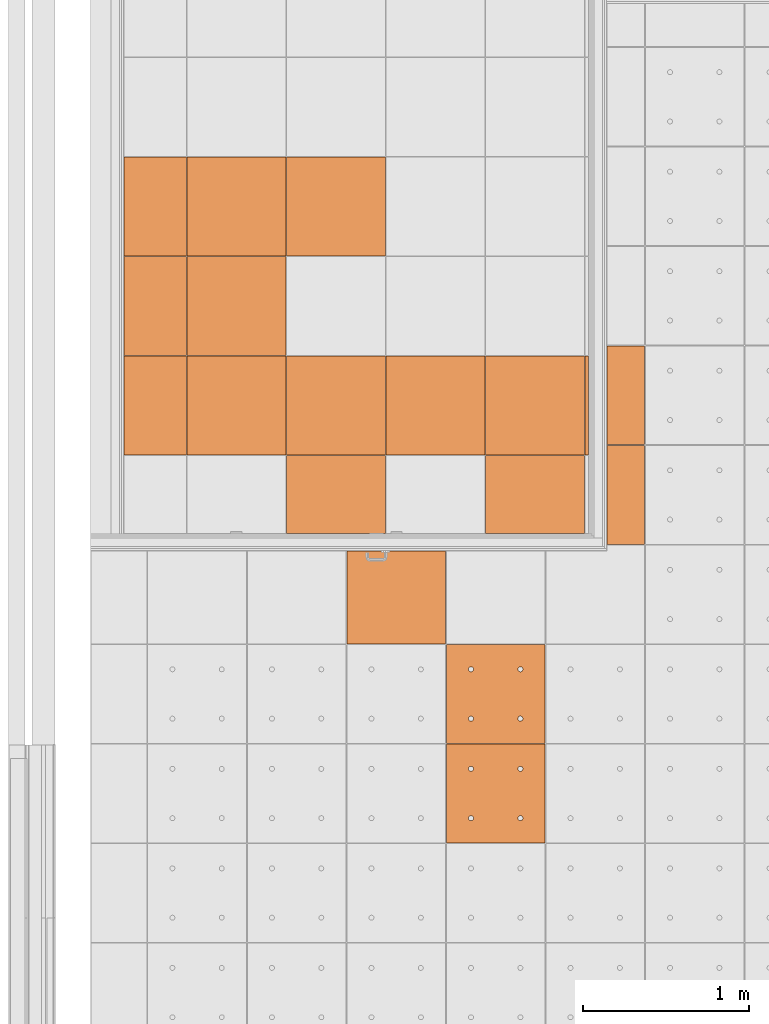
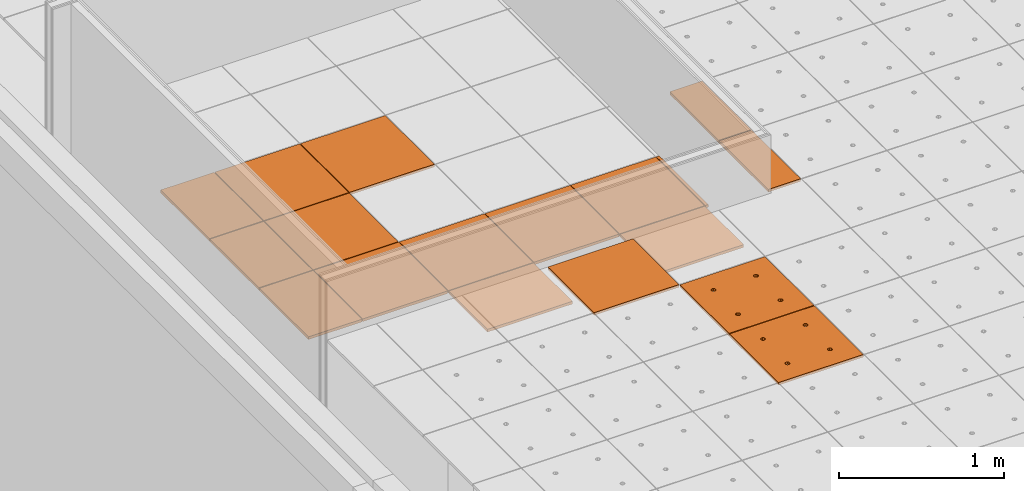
# One storey, part 242 of 338: 18 proxies, 2 elements without a shape of their own.
"""IFC2X3 building model written with IfcOpenShell, lengths in millimetres."""

from ifc_helpers import new_model, entity, si_unit, converted_unit, derived_unit, money_unit, direction, frame, origin_with_axes, place, context, subcontext, project, spatial, faceted_brep, source, transform, mapped, material, type_object, type_shapes, element, aggregate, save


model = new_model("IFC2X3")

# Units and contexts
model_context = context("Model", 3, precision=0.01, world=origin_with_axes(), true_north=direction((0.0, 1.0)))
plan_context = context("Plan", 3, precision=0.01, world=origin_with_axes(), true_north=direction((0.0, 1.0)))
body_context = subcontext(model_context, "Body", "Model", "MODEL_VIEW")
ifc_project = project(units=[si_unit("LENGTHUNIT", "METRE", prefix="MILLI"), si_unit("AREAUNIT", "SQUARE_METRE"), si_unit("VOLUMEUNIT", "CUBIC_METRE"), converted_unit("PLANEANGLEUNIT", "DEGREE", entity("IfcPlaneAngleMeasure", 0.0174532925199), si_unit("PLANEANGLEUNIT", "RADIAN"), dimensions=[0, 0, 0, 0, 0, 0, 0]), money_unit("EUR"), converted_unit("TIMEUNIT", "Year", entity("IfcTimeMeasure", 31556926.0), si_unit("TIMEUNIT", "SECOND"), dimensions=[0, 0, 1, 0, 0, 0, 0]), si_unit("MASSUNIT", "GRAM", prefix="KILO"), si_unit("THERMODYNAMICTEMPERATUREUNIT", "DEGREE_CELSIUS"), si_unit("LUMINOUSINTENSITYUNIT", "LUMEN"), si_unit("ENERGYUNIT", "JOULE", prefix="MEGA"), derived_unit("THERMALCONDUCTANCEUNIT", [(si_unit("POWERUNIT", "WATT"), 1), (si_unit("LENGTHUNIT", "METRE"), -1), (si_unit("THERMODYNAMICTEMPERATUREUNIT", "KELVIN"), -1)]), derived_unit("SPECIFICHEATCAPACITYUNIT", [(si_unit("ENERGYUNIT", "JOULE"), 1), (si_unit("MASSUNIT", "GRAM", prefix="KILO"), -1), (si_unit("THERMODYNAMICTEMPERATUREUNIT", "KELVIN"), -1)]), derived_unit("MASSDENSITYUNIT", [(si_unit("MASSUNIT", "GRAM", prefix="KILO"), 1), (si_unit("VOLUMEUNIT", "CUBIC_METRE"), -1)])], contexts=[model_context, plan_context])

# Site, building, storey
site_placement = place(None, origin_with_axes())
site = spatial("IfcSite", under=ifc_project, at=site_placement, Name="Fortuinstraat Woensdrecht", CompositionType="ELEMENT")
building_placement = place(site_placement, origin_with_axes())
building = spatial("IfcBuilding", under=site, at=building_placement, Name="IKC Fortuna", CompositionType="ELEMENT")
storey_placement = place(building_placement, origin_with_axes())
storey = spatial("IfcBuildingStorey", under=building, at=storey_placement, Name="00 begane grond", CompositionType="ELEMENT", Elevation=0.0)

# Covering, proxies
covering_type = type_object("IfcCoveringType", Name="Curtain Wall Type", PredefinedType="CEILING")
covering_1_placement = place(storey_placement, frame((14689.4846177, 25257.3287491, 2810.0), z_axis=(0.0, 0.0, 1.0), x_axis=(1.0, 0.0, 0.0)))
covering_1 = element("IfcCovering", 1, at=covering_1_placement, inside=storey, type_object=covering_type, Name="45_Plafondafwerking_P02", PredefinedType="CEILING")
ifc_material = material(Name="Gipsplaat")
building_element_proxy_type_1 = type_object("IfcBuildingElementProxyType", Name="Distinct Panel 600 x 600 x 20", PredefinedType="NOTDEFINED")
shared_shape_1 = source(origin_with_axes(), body_context, "Body", "Brep", [
    faceted_brep([(-2.49999999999, 2.5, -10.0), (-2.49999999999, 2.5, 10.0), (-597.5, 2.49999999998, 10.0), (-597.5, 2.49999999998, -10.0), (-2.50000000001, 597.5, -10.0), (-2.50000000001, 597.5, 10.0), (-597.5, 597.5, 10.0), (-597.5, 597.5, -10.0)], [[[0, 1, 2, 3]], [[4, 5, 1, 0]], [[1, 5, 6, 2]], [[3, 2, 6, 7]], [[0, 3, 7, 4]], [[7, 6, 5, 4]]]),
])
proxy_1_placement = place(covering_1_placement, origin_with_axes())
proxy_1 = element("IfcBuildingElementProxy", 2, at=proxy_1_placement, type_object=building_element_proxy_type_1, material=ifc_material, Name="__Panel-D", context=body_context, shape_type="MappedRepresentation", body=[
    mapped(shared_shape_1, transform((-300.0, 300.0, 0.0), x_axis=(-1.0, 0.0, 0.0), y_axis=(0.0, -1.0, 0.0), z_axis=(0.0, 0.0, 1.0))),
])
proxy_2_placement = place(covering_1_placement, frame((0.0, -600.0, 0.0), z_axis=(0.0, 0.0, 1.0), x_axis=(1.0, 0.0, 0.0)))
proxy_2 = element("IfcBuildingElementProxy", 3, at=proxy_2_placement, type_object=building_element_proxy_type_1, material=ifc_material, Name="__Panel-D", context=body_context, shape_type="MappedRepresentation", body=[
    mapped(shared_shape_1, transform((-300.0, 300.0, 0.0), x_axis=(-1.0, 0.0, 0.0), y_axis=(0.0, -1.0, 0.0), z_axis=(0.0, 0.0, 1.0))),
])
proxy_3_placement = place(covering_1_placement, frame((0.0, -1200.0, 0.0), z_axis=(0.0, 0.0, 1.0), x_axis=(1.0, 0.0, 0.0)))
proxy_3 = element("IfcBuildingElementProxy", 4, at=proxy_3_placement, type_object=building_element_proxy_type_1, material=ifc_material, Name="__Panel-D", context=body_context, shape_type="MappedRepresentation", body=[
    mapped(shared_shape_1, transform((-300.0, 300.0, 0.0), x_axis=(-1.0, 0.0, 0.0), y_axis=(0.0, -1.0, 0.0), z_axis=(0.0, 0.0, 1.0))),
])
proxy_4_placement = place(covering_1_placement, frame((600.0, 0.0, 0.0), z_axis=(0.0, 0.0, 1.0), x_axis=(1.0, 0.0, 0.0)))
proxy_4 = element("IfcBuildingElementProxy", 5, at=proxy_4_placement, type_object=building_element_proxy_type_1, material=ifc_material, Name="__Panel-D", context=body_context, shape_type="MappedRepresentation", body=[
    mapped(shared_shape_1, transform((-300.0, 300.0, 0.0), x_axis=(-1.0, 0.0, 0.0), y_axis=(0.0, -1.0, 0.0), z_axis=(0.0, 0.0, 1.0))),
])
proxy_5_placement = place(covering_1_placement, frame((1200.0, -1200.0, 0.0), z_axis=(0.0, 0.0, 1.0), x_axis=(1.0, 0.0, 0.0)))
proxy_5 = element("IfcBuildingElementProxy", 6, at=proxy_5_placement, type_object=building_element_proxy_type_1, material=ifc_material, Name="__Panel-D", context=body_context, shape_type="MappedRepresentation", body=[
    mapped(shared_shape_1, transform((-300.0, 300.0, 0.0), x_axis=(-1.0, 0.0, 0.0), y_axis=(0.0, -1.0, 0.0), z_axis=(0.0, 0.0, 1.0))),
])
proxy_6_placement = place(covering_1_placement, frame((600.0, -1200.0, 0.0), z_axis=(0.0, 0.0, 1.0), x_axis=(1.0, 0.0, 0.0)))
proxy_6 = element("IfcBuildingElementProxy", 7, at=proxy_6_placement, type_object=building_element_proxy_type_1, material=ifc_material, Name="__Panel-D", context=body_context, shape_type="MappedRepresentation", body=[
    mapped(shared_shape_1, transform((-300.0, 300.0, 0.0), x_axis=(-1.0, 0.0, 0.0), y_axis=(0.0, -1.0, 0.0), z_axis=(0.0, 0.0, 1.0))),
])
shared_shape_2 = source(origin_with_axes(), body_context, "Body", "Brep", [
    faceted_brep([(-2.50000185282, 2.50000514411, -10.0), (-2.50000185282, 2.50000514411, 10.0), (-597.499994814, 2.50000188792, 10.0), (-597.499994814, 2.50000188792, -10.0), (-2.50000510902, 597.499998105, -10.0), (-2.50000510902, 597.499998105, 10.0), (-597.49998844, 597.50000293, 10.0), (-597.49998844, 597.50000293, -10.0)], [[[0, 1, 2, 3]], [[4, 5, 1, 0]], [[1, 5, 6, 2]], [[3, 2, 6, 7]], [[0, 3, 7, 4]], [[7, 6, 5, 4]]]),
])
type_shapes(building_element_proxy_type_1, [shared_shape_1, shared_shape_2])
proxy_7_placement = place(covering_1_placement, frame((1800.0, -1200.0, 0.0), z_axis=(0.0, 0.0, 1.0), x_axis=(1.0, 0.0, 0.0)))
proxy_7 = element("IfcBuildingElementProxy", 8, at=proxy_7_placement, type_object=building_element_proxy_type_1, material=ifc_material, Name="__Panel-D", context=body_context, shape_type="MappedRepresentation", body=[
    mapped(shared_shape_2, transform((-300.0, 300.0, 0.0), x_axis=(-1.0, 0.0, 0.0), y_axis=(0.0, -1.0, 0.0), z_axis=(0.0, 0.0, 1.0))),
])
building_element_proxy_type_2 = type_object("IfcBuildingElementProxyType", Name="Distinct Panel 380 x 600 x 20", PredefinedType="NOTDEFINED")
shared_shape_3 = source(origin_with_axes(), body_context, "Body", "Brep", [
    faceted_brep([(-222.450352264, 2.5, -10.0), (-222.450352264, 2.5, 10.0), (-597.5, 2.49999999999, 10.0), (-597.5, 2.49999999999, -10.0), (-222.450352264, 597.5, -10.0), (-222.450352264, 597.5, 10.0), (-597.5, 597.5, 10.0), (-597.5, 597.5, -10.0)], [[[0, 1, 2, 3]], [[4, 5, 1, 0]], [[1, 5, 6, 2]], [[3, 2, 6, 7]], [[0, 3, 7, 4]], [[7, 6, 5, 4]]]),
])
type_shapes(building_element_proxy_type_2, [shared_shape_3])
proxy_8_placement = place(covering_1_placement, frame((-490.024822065, -600.0, 0.0), z_axis=(0.0, 0.0, 1.0), x_axis=(1.0, 0.0, 0.0)))
proxy_8 = element("IfcBuildingElementProxy", 9, at=proxy_8_placement, type_object=building_element_proxy_type_2, material=ifc_material, Name="__Panel-D", context=body_context, shape_type="MappedRepresentation", body=[
    mapped(shared_shape_3, transform((-409.975177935, 300.0, 0.0), x_axis=(-1.0, 0.0, 0.0), y_axis=(0.0, -1.0, 0.0), z_axis=(0.0, 0.0, 1.0))),
])
proxy_9_placement = place(covering_1_placement, frame((-490.024822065, 0.0, 0.0), z_axis=(0.0, 0.0, 1.0), x_axis=(1.0, 0.0, 0.0)))
proxy_9 = element("IfcBuildingElementProxy", 10, at=proxy_9_placement, type_object=building_element_proxy_type_2, material=ifc_material, Name="__Panel-D", context=body_context, shape_type="MappedRepresentation", body=[
    mapped(shared_shape_3, transform((-409.975177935, 300.0, 0.0), x_axis=(-1.0, 0.0, 0.0), y_axis=(0.0, -1.0, 0.0), z_axis=(0.0, 0.0, 1.0))),
])
proxy_10_placement = place(covering_1_placement, frame((-490.024822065, -1200.0, 0.0), z_axis=(0.0, 0.0, 1.0), x_axis=(1.0, 0.0, 0.0)))
proxy_10 = element("IfcBuildingElementProxy", 11, at=proxy_10_placement, type_object=building_element_proxy_type_2, material=ifc_material, Name="__Panel-D", context=body_context, shape_type="MappedRepresentation", body=[
    mapped(shared_shape_3, transform((-409.975177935, 300.0, 0.0), x_axis=(-1.0, 0.0, 0.0), y_axis=(0.0, -1.0, 0.0), z_axis=(0.0, 0.0, 1.0))),
])
building_element_proxy_type_3 = type_object("IfcBuildingElementProxyType", Name="Distinct Panel 600 x 475 x 20", PredefinedType="NOTDEFINED")
shared_shape_4 = source(origin_with_axes(), body_context, "Body", "Brep", [
    faceted_brep([(-2.49999999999, 2.50000037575, -10.0), (-2.49999999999, 2.50000037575, 10.0), (-597.5, 2.50000037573, 10.0), (-597.5, 2.50000037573, -10.0), (-2.50000000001, 472.282240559, -10.0), (-2.50000000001, 472.282240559, 10.0), (-597.5, 472.282240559, 10.0), (-597.5, 472.282240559, -10.0)], [[[0, 1, 2, 3]], [[4, 5, 1, 0]], [[1, 5, 6, 2]], [[3, 2, 6, 7]], [[0, 3, 7, 4]], [[7, 6, 5, 4]]]),
])
type_shapes(building_element_proxy_type_3, [shared_shape_4])
proxy_11_placement = place(covering_1_placement, frame((600.0, -1737.39112028, 0.0), z_axis=(0.0, 0.0, 1.0), x_axis=(1.0, 0.0, 0.0)))
proxy_11 = element("IfcBuildingElementProxy", 12, at=proxy_11_placement, type_object=building_element_proxy_type_3, material=ifc_material, Name="__Panel-D", context=body_context, shape_type="MappedRepresentation", body=[
    mapped(shared_shape_4, transform((-300.0, 237.391120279, 0.0), x_axis=(-1.0, 0.0, 0.0), y_axis=(0.0, -1.0, 0.0), z_axis=(0.0, 0.0, 1.0))),
])
proxy_12_placement = place(covering_1_placement, frame((1800.0, -1737.39112028, 0.0), z_axis=(0.0, 0.0, 1.0), x_axis=(1.0, 0.0, 0.0)))
proxy_12 = element("IfcBuildingElementProxy", 13, at=proxy_12_placement, type_object=building_element_proxy_type_3, material=ifc_material, Name="__Panel-D", context=body_context, shape_type="MappedRepresentation", body=[
    mapped(shared_shape_4, transform((-300.0, 237.391120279, 0.0), x_axis=(-1.0, 0.0, 0.0), y_axis=(0.0, -1.0, 0.0), z_axis=(0.0, 0.0, 1.0))),
])
building_element_proxy_type_4 = type_object("IfcBuildingElementProxyType", Name="Distinct Panel 26 x 600 x 20", PredefinedType="NOTDEFINED")
shared_shape_5 = source(origin_with_axes(), body_context, "Body", "Brep", [
    faceted_brep([(-2.50000116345, 2.5, -10.0), (-2.50000116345, 2.5, 10.0), (-23.5482988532, 2.5, 10.0), (-23.5482988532, 2.5, -10.0), (-2.50000116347, 597.5, -10.0), (-2.50000116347, 597.5, 10.0), (-23.5482988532, 597.5, 10.0), (-23.5482988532, 597.5, -10.0)], [[[0, 1, 2, 3]], [[4, 5, 1, 0]], [[1, 5, 6, 2]], [[3, 2, 6, 7]], [[0, 3, 7, 4]], [[7, 6, 5, 4]]]),
])
type_shapes(building_element_proxy_type_4, [shared_shape_5])
proxy_13_placement = place(covering_1_placement, frame((2113.02414943, -1200.0, 0.0), z_axis=(0.0, 0.0, 1.0), x_axis=(1.0, 0.0, 0.0)))
proxy_13 = element("IfcBuildingElementProxy", 14, at=proxy_13_placement, type_object=building_element_proxy_type_4, material=ifc_material, Name="__Panel-D", context=body_context, shape_type="MappedRepresentation", body=[
    mapped(shared_shape_5, transform((-13.0241494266, 300.0, 0.0), x_axis=(-1.0, 0.0, 0.0), y_axis=(0.0, -1.0, 0.0), z_axis=(0.0, 0.0, 1.0))),
])
aggregate(covering_1, [proxy_1, proxy_2, proxy_3, proxy_8, proxy_11, proxy_4, proxy_13, proxy_7, proxy_12, proxy_5, proxy_9, proxy_6, proxy_10])

covering_2_placement = place(storey_placement, frame((17451.9845996, 24118.5314449, 3210.0), z_axis=(0.0, 0.0, 1.0), x_axis=(1.0, 0.0, 0.0)))
covering_2 = element("IfcCovering", 15, at=covering_2_placement, inside=storey, type_object=covering_type, Name="45_Plafondafwerking_P01", PredefinedType="CEILING")
building_element_proxy_type_5 = type_object("IfcBuildingElementProxyType", Name="Main Panel 600 x 600 x 20", PredefinedType="NOTDEFINED")
shared_shape_6 = source(origin_with_axes(), body_context, "Body", "Brep", [
    faceted_brep([(2.49999999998, 2.49999999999, -10.0), (300.0, 2.49999999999, -10.0), (300.0, 2.49999999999, 10.0), (2.49999999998, 2.49999999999, 10.0), (2.49999999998, 300.0, -10.0), (2.49999999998, 597.5, -10.0), (300.0, 597.5, -10.0), (597.5, 597.5, -10.0), (597.5, 300.0, -10.0), (597.5, 2.49999999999, -10.0), (166.25, 450.06232995, -10.0), (165.79423259, 452.64711538, -10.0), (164.896546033, 455.11348892, -10.0), (163.58421608, 457.38651108, -10.0), (161.897117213, 459.39711721, -10.0), (159.886511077, 461.08421608, -10.0), (157.613488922, 462.39654603, -10.0), (155.147115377, 463.29423259, -10.0), (152.562329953, 463.75, -10.0), (149.937670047, 463.75, -10.0), (147.352884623, 463.29423259, -10.0), (144.886511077, 462.39654603, -10.0), (142.613488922, 461.08421608, -10.0), (140.602882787, 459.39711721, -10.0), (138.91578392, 457.38651108, -10.0), (137.603453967, 455.11348892, -10.0), (136.705767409, 452.64711538, -10.0), (136.25, 450.06232995, -10.0), (136.25, 448.75, -10.0), (136.25, 447.43767005, -10.0), (136.705767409, 444.85288462, -10.0), (137.603453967, 442.38651108, -10.0), (138.91578392, 440.11348892, -10.0), (140.602882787, 438.10288279, -10.0), (142.613488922, 436.41578392, -10.0), (144.886511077, 435.10345397, -10.0), (147.352884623, 434.20576741, -10.0), (149.937670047, 433.75, -10.0), (152.562329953, 433.75, -10.0), (155.147115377, 434.20576741, -10.0), (157.613488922, 435.10345397, -10.0), (159.886511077, 436.41578392, -10.0), (161.897117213, 438.10288279, -10.0), (163.58421608, 440.11348892, -10.0), (164.896546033, 442.38651108, -10.0), (165.79423259, 444.85288462, -10.0), (166.25, 447.43767005, -10.0), (463.75, 450.06232995, -10.0), (463.29423259, 452.64711538, -10.0), (462.396546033, 455.11348892, -10.0), (461.08421608, 457.38651108, -10.0), (459.397117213, 459.39711721, -10.0), (457.386511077, 461.08421608, -10.0), (455.113488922, 462.39654603, -10.0), (452.647115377, 463.29423259, -10.0), (450.062329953, 463.75, -10.0), (447.437670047, 463.75, -10.0), (444.852884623, 463.29423259, -10.0), (442.386511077, 462.39654603, -10.0), (440.113488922, 461.08421608, -10.0), (438.102882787, 459.39711721, -10.0), (436.41578392, 457.38651108, -10.0), (435.103453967, 455.11348892, -10.0), (434.205767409, 452.64711538, -10.0), (433.75, 450.06232995, -10.0), (433.75, 448.75, -10.0), (433.75, 447.43767005, -10.0), (434.205767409, 444.85288462, -10.0), (435.103453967, 442.38651108, -10.0), (436.41578392, 440.11348892, -10.0), (438.102882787, 438.10288279, -10.0), (440.113488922, 436.41578392, -10.0), (442.386511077, 435.10345397, -10.0), (444.852884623, 434.20576741, -10.0), (447.437670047, 433.75, -10.0), (450.062329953, 433.75, -10.0), (452.647115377, 434.20576741, -10.0), (455.113488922, 435.10345397, -10.0), (457.386511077, 436.41578392, -10.0), (459.397117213, 438.10288279, -10.0), (461.08421608, 440.11348892, -10.0), (462.396546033, 442.38651108, -10.0), (463.29423259, 444.85288462, -10.0), (463.75, 447.43767005, -10.0), (463.75, 152.56232995, -10.0), (463.29423259, 155.14711538, -10.0), (462.396546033, 157.61348892, -10.0), (461.08421608, 159.88651108, -10.0), (459.397117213, 161.89711721, -10.0), (457.386511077, 163.58421608, -10.0), (455.113488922, 164.89654603, -10.0), (452.647115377, 165.79423259, -10.0), (450.062329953, 166.25, -10.0), (447.437670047, 166.25, -10.0), (444.852884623, 165.79423259, -10.0), (442.386511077, 164.89654603, -10.0), (440.113488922, 163.58421608, -10.0), (438.102882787, 161.89711721, -10.0), (436.41578392, 159.88651108, -10.0), (435.103453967, 157.61348892, -10.0), (434.205767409, 155.14711538, -10.0), (433.75, 152.56232995, -10.0), (433.75, 151.25, -10.0), (433.75, 149.93767005, -10.0), (434.205767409, 147.35288462, -10.0), (435.103453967, 144.88651108, -10.0), (436.41578392, 142.61348892, -10.0), (438.102882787, 140.60288279, -10.0), (440.113488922, 138.91578392, -10.0), (442.386511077, 137.60345397, -10.0), (444.852884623, 136.70576741, -10.0), (447.437670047, 136.25, -10.0), (450.062329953, 136.25, -10.0), (452.647115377, 136.70576741, -10.0), (455.113488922, 137.60345397, -10.0), (457.386511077, 138.91578392, -10.0), (459.397117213, 140.60288279, -10.0), (461.08421608, 142.61348892, -10.0), (462.396546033, 144.88651108, -10.0), (463.29423259, 147.35288462, -10.0), (463.75, 149.93767005, -10.0), (166.25, 152.56232995, -10.0), (165.79423259, 155.14711538, -10.0), (164.896546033, 157.61348892, -10.0), (163.58421608, 159.88651108, -10.0), (161.897117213, 161.89711721, -10.0), (159.886511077, 163.58421608, -10.0), (157.613488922, 164.89654603, -10.0), (155.147115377, 165.79423259, -10.0), (152.562329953, 166.25, -10.0), (149.937670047, 166.25, -10.0), (147.352884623, 165.79423259, -10.0), (144.886511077, 164.89654603, -10.0), (142.613488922, 163.58421608, -10.0), (140.602882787, 161.89711721, -10.0), (138.91578392, 159.88651108, -10.0), (137.603453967, 157.61348892, -10.0), (136.705767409, 155.14711538, -10.0), (136.25, 152.56232995, -10.0), (136.25, 151.25, -10.0), (136.25, 149.93767005, -10.0), (136.705767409, 147.35288462, -10.0), (137.603453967, 144.88651108, -10.0), (138.91578392, 142.61348892, -10.0), (140.602882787, 140.60288279, -10.0), (142.613488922, 138.91578392, -10.0), (144.886511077, 137.60345397, -10.0), (147.352884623, 136.70576741, -10.0), (149.937670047, 136.25, -10.0), (152.562329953, 136.25, -10.0), (155.147115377, 136.70576741, -10.0), (157.613488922, 137.60345397, -10.0), (159.886511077, 138.91578392, -10.0), (161.897117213, 140.60288279, -10.0), (163.58421608, 142.61348892, -10.0), (164.896546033, 144.88651108, -10.0), (165.79423259, 147.35288462, -10.0), (166.25, 149.93767005, -10.0), (597.5, 2.49999999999, 10.0), (597.5, 300.0, 10.0), (597.5, 597.5, 10.0), (300.0, 597.5, 10.0), (2.49999999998, 597.5, 10.0), (2.49999999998, 300.0, 10.0), (166.25, 450.06232995, 10.0), (166.25, 447.43767005, 10.0), (165.79423259, 444.85288462, 10.0), (164.896546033, 442.38651108, 10.0), (163.58421608, 440.11348892, 10.0), (161.897117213, 438.10288279, 10.0), (159.886511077, 436.41578392, 10.0), (157.613488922, 435.10345397, 10.0), (155.147115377, 434.20576741, 10.0), (152.562329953, 433.75, 10.0), (149.937670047, 433.75, 10.0), (147.352884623, 434.20576741, 10.0), (144.886511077, 435.10345397, 10.0), (142.613488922, 436.41578392, 10.0), (140.602882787, 438.10288279, 10.0), (138.91578392, 440.11348892, 10.0), (137.603453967, 442.38651108, 10.0), (136.705767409, 444.85288462, 10.0), (136.25, 447.43767005, 10.0), (136.25, 448.75, 10.0), (136.25, 450.06232995, 10.0), (136.705767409, 452.64711538, 10.0), (137.603453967, 455.11348892, 10.0), (138.91578392, 457.38651108, 10.0), (140.602882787, 459.39711721, 10.0), (142.613488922, 461.08421608, 10.0), (144.886511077, 462.39654603, 10.0), (147.352884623, 463.29423259, 10.0), (149.937670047, 463.75, 10.0), (152.562329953, 463.75, 10.0), (155.147115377, 463.29423259, 10.0), (157.613488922, 462.39654603, 10.0), (159.886511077, 461.08421608, 10.0), (161.897117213, 459.39711721, 10.0), (163.58421608, 457.38651108, 10.0), (164.896546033, 455.11348892, 10.0), (165.79423259, 452.64711538, 10.0), (463.75, 450.06232995, 10.0), (463.75, 447.43767005, 10.0), (463.29423259, 444.85288462, 10.0), (462.396546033, 442.38651108, 10.0), (461.08421608, 440.11348892, 10.0), (459.397117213, 438.10288279, 10.0), (457.386511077, 436.41578392, 10.0), (455.113488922, 435.10345397, 10.0), (452.647115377, 434.20576741, 10.0), (450.062329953, 433.75, 10.0), (447.437670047, 433.75, 10.0), (444.852884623, 434.20576741, 10.0), (442.386511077, 435.10345397, 10.0), (440.113488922, 436.41578392, 10.0), (438.102882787, 438.10288279, 10.0), (436.41578392, 440.11348892, 10.0), (435.103453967, 442.38651108, 10.0), (434.205767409, 444.85288462, 10.0), (433.75, 447.43767005, 10.0), (433.75, 448.75, 10.0), (433.75, 450.06232995, 10.0), (434.205767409, 452.64711538, 10.0), (435.103453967, 455.11348892, 10.0), (436.41578392, 457.38651108, 10.0), (438.102882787, 459.39711721, 10.0), (440.113488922, 461.08421608, 10.0), (442.386511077, 462.39654603, 10.0), (444.852884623, 463.29423259, 10.0), (447.437670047, 463.75, 10.0), (450.062329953, 463.75, 10.0), (452.647115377, 463.29423259, 10.0), (455.113488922, 462.39654603, 10.0), (457.386511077, 461.08421608, 10.0), (459.397117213, 459.39711721, 10.0), (461.08421608, 457.38651108, 10.0), (462.396546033, 455.11348892, 10.0), (463.29423259, 452.64711538, 10.0), (463.75, 152.56232995, 10.0), (463.75, 149.93767005, 10.0), (463.29423259, 147.35288462, 10.0), (462.396546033, 144.88651108, 10.0), (461.08421608, 142.61348892, 10.0), (459.397117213, 140.60288279, 10.0), (457.386511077, 138.91578392, 10.0), (455.113488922, 137.60345397, 10.0), (452.647115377, 136.70576741, 10.0), (450.062329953, 136.25, 10.0), (447.437670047, 136.25, 10.0), (444.852884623, 136.70576741, 10.0), (442.386511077, 137.60345397, 10.0), (440.113488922, 138.91578392, 10.0), (438.102882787, 140.60288279, 10.0), (436.41578392, 142.61348892, 10.0), (435.103453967, 144.88651108, 10.0), (434.205767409, 147.35288462, 10.0), (433.75, 149.93767005, 10.0), (433.75, 151.25, 10.0), (433.75, 152.56232995, 10.0), (434.205767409, 155.14711538, 10.0), (435.103453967, 157.61348892, 10.0), (436.41578392, 159.88651108, 10.0), (438.102882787, 161.89711721, 10.0), (440.113488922, 163.58421608, 10.0), (442.386511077, 164.89654603, 10.0), (444.852884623, 165.79423259, 10.0), (447.437670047, 166.25, 10.0), (450.062329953, 166.25, 10.0), (452.647115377, 165.79423259, 10.0), (455.113488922, 164.89654603, 10.0), (457.386511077, 163.58421608, 10.0), (459.397117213, 161.89711721, 10.0), (461.08421608, 159.88651108, 10.0), (462.396546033, 157.61348892, 10.0), (463.29423259, 155.14711538, 10.0), (166.25, 152.56232995, 10.0), (166.25, 149.93767005, 10.0), (165.79423259, 147.35288462, 10.0), (164.896546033, 144.88651108, 10.0), (163.58421608, 142.61348892, 10.0), (161.897117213, 140.60288279, 10.0), (159.886511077, 138.91578392, 10.0), (157.613488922, 137.60345397, 10.0), (155.147115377, 136.70576741, 10.0), (152.562329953, 136.25, 10.0), (149.937670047, 136.25, 10.0), (147.352884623, 136.70576741, 10.0), (144.886511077, 137.60345397, 10.0), (142.613488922, 138.91578392, 10.0), (140.602882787, 140.60288279, 10.0), (138.91578392, 142.61348892, 10.0), (137.603453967, 144.88651108, 10.0), (136.705767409, 147.35288462, 10.0), (136.25, 149.93767005, 10.0), (136.25, 151.25, 10.0), (136.25, 152.56232995, 10.0), (136.705767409, 155.14711538, 10.0), (137.603453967, 157.61348892, 10.0), (138.91578392, 159.88651108, 10.0), (140.602882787, 161.89711721, 10.0), (142.613488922, 163.58421608, 10.0), (144.886511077, 164.89654603, 10.0), (147.352884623, 165.79423259, 10.0), (149.937670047, 166.25, 10.0), (152.562329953, 166.25, 10.0), (155.147115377, 165.79423259, 10.0), (157.613488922, 164.89654603, 10.0), (159.886511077, 163.58421608, 10.0), (161.897117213, 161.89711721, 10.0), (163.58421608, 159.88651108, 10.0), (164.896546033, 157.61348892, 10.0), (165.79423259, 155.14711538, 10.0)], [[[0, 1, 2, 3]], [[0, 4, 5, 6, 7, 8, 9, 1], [10, 11, 12, 13, 14, 15, 16, 17, 18, 19, 20, 21, 22, 23, 24, 25, 26, 27, 28, 29, 30, 31, 32, 33, 34, 35, 36, 37, 38, 39, 40, 41, 42, 43, 44, 45, 46], [47, 48, 49, 50, 51, 52, 53, 54, 55, 56, 57, 58, 59, 60, 61, 62, 63, 64, 65, 66, 67, 68, 69, 70, 71, 72, 73, 74, 75, 76, 77, 78, 79, 80, 81, 82, 83], [84, 85, 86, 87, 88, 89, 90, 91, 92, 93, 94, 95, 96, 97, 98, 99, 100, 101, 102, 103, 104, 105, 106, 107, 108, 109, 110, 111, 112, 113, 114, 115, 116, 117, 118, 119, 120], [121, 122, 123, 124, 125, 126, 127, 128, 129, 130, 131, 132, 133, 134, 135, 136, 137, 138, 139, 140, 141, 142, 143, 144, 145, 146, 147, 148, 149, 150, 151, 152, 153, 154, 155, 156, 157]], [[1, 9, 158, 2]], [[3, 2, 158, 159, 160, 161, 162, 163], [164, 165, 166, 167, 168, 169, 170, 171, 172, 173, 174, 175, 176, 177, 178, 179, 180, 181, 182, 183, 184, 185, 186, 187, 188, 189, 190, 191, 192, 193, 194, 195, 196, 197, 198, 199, 200], [201, 202, 203, 204, 205, 206, 207, 208, 209, 210, 211, 212, 213, 214, 215, 216, 217, 218, 219, 220, 221, 222, 223, 224, 225, 226, 227, 228, 229, 230, 231, 232, 233, 234, 235, 236, 237], [238, 239, 240, 241, 242, 243, 244, 245, 246, 247, 248, 249, 250, 251, 252, 253, 254, 255, 256, 257, 258, 259, 260, 261, 262, 263, 264, 265, 266, 267, 268, 269, 270, 271, 272, 273, 274], [275, 276, 277, 278, 279, 280, 281, 282, 283, 284, 285, 286, 287, 288, 289, 290, 291, 292, 293, 294, 295, 296, 297, 298, 299, 300, 301, 302, 303, 304, 305, 306, 307, 308, 309, 310, 311]], [[4, 0, 3, 163]], [[5, 4, 163, 162]], [[6, 5, 162, 161]], [[7, 6, 161, 160]], [[8, 7, 160, 159]], [[9, 8, 159, 158]], [[11, 10, 164, 200]], [[12, 11, 200, 199]], [[13, 12, 199, 198]], [[14, 13, 198, 197]], [[15, 14, 197, 196]], [[16, 15, 196, 195]], [[17, 16, 195, 194]], [[18, 17, 194, 193]], [[19, 18, 193, 192]], [[20, 19, 192, 191]], [[21, 20, 191, 190]], [[22, 21, 190, 189]], [[23, 22, 189, 188]], [[24, 23, 188, 187]], [[25, 24, 187, 186]], [[26, 25, 186, 185]], [[27, 26, 185, 184]], [[28, 27, 184, 183]], [[29, 28, 183, 182]], [[30, 29, 182, 181]], [[31, 30, 181, 180]], [[32, 31, 180, 179]], [[33, 32, 179, 178]], [[34, 33, 178, 177]], [[35, 34, 177, 176]], [[36, 35, 176, 175]], [[37, 36, 175, 174]], [[38, 37, 174, 173]], [[39, 38, 173, 172]], [[40, 39, 172, 171]], [[41, 40, 171, 170]], [[42, 41, 170, 169]], [[43, 42, 169, 168]], [[44, 43, 168, 167]], [[45, 44, 167, 166]], [[46, 45, 166, 165]], [[10, 46, 165, 164]], [[48, 47, 201, 237]], [[49, 48, 237, 236]], [[50, 49, 236, 235]], [[51, 50, 235, 234]], [[52, 51, 234, 233]], [[53, 52, 233, 232]], [[54, 53, 232, 231]], [[55, 54, 231, 230]], [[56, 55, 230, 229]], [[57, 56, 229, 228]], [[58, 57, 228, 227]], [[59, 58, 227, 226]], [[60, 59, 226, 225]], [[61, 60, 225, 224]], [[62, 61, 224, 223]], [[63, 62, 223, 222]], [[64, 63, 222, 221]], [[65, 64, 221, 220]], [[66, 65, 220, 219]], [[67, 66, 219, 218]], [[68, 67, 218, 217]], [[69, 68, 217, 216]], [[70, 69, 216, 215]], [[71, 70, 215, 214]], [[72, 71, 214, 213]], [[73, 72, 213, 212]], [[74, 73, 212, 211]], [[75, 74, 211, 210]], [[76, 75, 210, 209]], [[77, 76, 209, 208]], [[78, 77, 208, 207]], [[79, 78, 207, 206]], [[80, 79, 206, 205]], [[81, 80, 205, 204]], [[82, 81, 204, 203]], [[83, 82, 203, 202]], [[47, 83, 202, 201]], [[85, 84, 238, 274]], [[86, 85, 274, 273]], [[87, 86, 273, 272]], [[88, 87, 272, 271]], [[89, 88, 271, 270]], [[90, 89, 270, 269]], [[91, 90, 269, 268]], [[92, 91, 268, 267]], [[93, 92, 267, 266]], [[94, 93, 266, 265]], [[95, 94, 265, 264]], [[96, 95, 264, 263]], [[97, 96, 263, 262]], [[98, 97, 262, 261]], [[99, 98, 261, 260]], [[100, 99, 260, 259]], [[101, 100, 259, 258]], [[102, 101, 258, 257]], [[103, 102, 257, 256]], [[104, 103, 256, 255]], [[105, 104, 255, 254]], [[106, 105, 254, 253]], [[107, 106, 253, 252]], [[108, 107, 252, 251]], [[109, 108, 251, 250]], [[110, 109, 250, 249]], [[111, 110, 249, 248]], [[112, 111, 248, 247]], [[113, 112, 247, 246]], [[114, 113, 246, 245]], [[115, 114, 245, 244]], [[116, 115, 244, 243]], [[117, 116, 243, 242]], [[118, 117, 242, 241]], [[119, 118, 241, 240]], [[120, 119, 240, 239]], [[84, 120, 239, 238]], [[122, 121, 275, 311]], [[123, 122, 311, 310]], [[124, 123, 310, 309]], [[125, 124, 309, 308]], [[126, 125, 308, 307]], [[127, 126, 307, 306]], [[128, 127, 306, 305]], [[129, 128, 305, 304]], [[130, 129, 304, 303]], [[131, 130, 303, 302]], [[132, 131, 302, 301]], [[133, 132, 301, 300]], [[134, 133, 300, 299]], [[135, 134, 299, 298]], [[136, 135, 298, 297]], [[137, 136, 297, 296]], [[138, 137, 296, 295]], [[139, 138, 295, 294]], [[140, 139, 294, 293]], [[141, 140, 293, 292]], [[142, 141, 292, 291]], [[143, 142, 291, 290]], [[144, 143, 290, 289]], [[145, 144, 289, 288]], [[146, 145, 288, 287]], [[147, 146, 287, 286]], [[148, 147, 286, 285]], [[149, 148, 285, 284]], [[150, 149, 284, 283]], [[151, 150, 283, 282]], [[152, 151, 282, 281]], [[153, 152, 281, 280]], [[154, 153, 280, 279]], [[155, 154, 279, 278]], [[156, 155, 278, 277]], [[157, 156, 277, 276]], [[121, 157, 276, 275]]]),
])
type_shapes(building_element_proxy_type_5, [shared_shape_6])
proxy_14_placement = place(covering_2_placement, frame((-1200.0, -1800.0, 1.37223565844e-10), z_axis=(0.0, 0.0, 1.0), x_axis=(1.0, 0.0, 0.0)))
proxy_14 = element("IfcBuildingElementProxy", 16, at=proxy_14_placement, type_object=building_element_proxy_type_5, material=ifc_material, Name="__600x779 Rockfon Krios", context=body_context, shape_type="MappedRepresentation", body=[
    mapped(shared_shape_6, transform((300.0, 300.0, 0.0), x_axis=(-1.0, 0.0, 0.0), y_axis=(0.0, -1.0, 0.0), z_axis=(0.0, 0.0, 1.0))),
])
proxy_15_placement = place(covering_2_placement, frame((-1200.0, -2400.0, 1.37223565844e-10), z_axis=(0.0, 0.0, 1.0), x_axis=(1.0, 0.0, 0.0)))
proxy_15 = element("IfcBuildingElementProxy", 17, at=proxy_15_placement, type_object=building_element_proxy_type_5, material=ifc_material, Name="__600x780 Rockfon Krios", context=body_context, shape_type="MappedRepresentation", body=[
    mapped(shared_shape_6, transform((300.0, 300.0, 0.0), x_axis=(-1.0, 0.0, 0.0), y_axis=(0.0, -1.0, 0.0), z_axis=(0.0, 0.0, 1.0))),
])
building_element_proxy_type_6 = type_object("IfcBuildingElementProxyType", Name="232 x 600 x 20", PredefinedType="NOTDEFINED")
shared_shape_7 = source(origin_with_axes(), body_context, "Body", "Brep", [
    faceted_brep([(2.50000198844, 2.5, -10.0), (229.950372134, 2.5, -10.0), (229.950372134, 2.5, 10.0), (2.50000198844, 2.5, 10.0), (2.50000198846, 597.5, -10.0), (229.950372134, 597.5, -10.0), (229.950372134, 597.5, 10.0), (2.50000198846, 597.5, 10.0)], [[[0, 1, 2, 3]], [[0, 4, 5, 1]], [[1, 5, 6, 2]], [[3, 2, 6, 7]], [[4, 0, 3, 7]], [[5, 4, 7, 6]]]),
])
type_shapes(building_element_proxy_type_6, [shared_shape_7])
proxy_16_placement = place(covering_2_placement, frame((-416.225186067, 0.0, 1.11466391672e-10), z_axis=(0.0, 0.0, 1.0), x_axis=(1.0, 0.0, 0.0)))
proxy_16 = element("IfcBuildingElementProxy", 18, at=proxy_16_placement, type_object=building_element_proxy_type_6, material=ifc_material, Name="__600x640 Rockfon Krios", context=body_context, shape_type="MappedRepresentation", body=[
    mapped(shared_shape_7, transform((116.225186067, 300.0, 0.0), x_axis=(-1.0, 0.0, 0.0), y_axis=(0.0, -1.0, 0.0), z_axis=(0.0, 0.0, 1.0))),
])
proxy_17_placement = place(covering_2_placement, frame((-416.225186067, -600.0, 1.11466391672e-10), z_axis=(0.0, 0.0, 1.0), x_axis=(1.0, 0.0, 0.0)))
proxy_17 = element("IfcBuildingElementProxy", 19, at=proxy_17_placement, type_object=building_element_proxy_type_6, material=ifc_material, Name="__600x746 Rockfon Krios", context=body_context, shape_type="MappedRepresentation", body=[
    mapped(shared_shape_7, transform((116.225186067, 300.0, 0.0), x_axis=(-1.0, 0.0, 0.0), y_axis=(0.0, -1.0, 0.0), z_axis=(0.0, 0.0, 1.0))),
])
building_element_proxy_type_7 = type_object("IfcBuildingElementProxyType", Name="600 x 564 x 20", PredefinedType="NOTDEFINED")
shared_shape_8 = source(origin_with_axes(), body_context, "Body", "Brep", [
    faceted_brep([(2.49999999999, 38.4849885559, -10.0), (597.5, 38.4849885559, -10.0), (597.5, 38.4849885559, 10.0), (2.49999999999, 38.4849885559, 10.0), (2.50000000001, 597.5, -10.0), (597.5, 597.5, -10.0), (597.5, 597.5, 10.0), (2.50000000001, 597.5, 10.0)], [[[0, 1, 2, 3]], [[0, 4, 5, 1]], [[1, 5, 6, 2]], [[3, 2, 6, 7]], [[4, 0, 3, 7]], [[5, 4, 7, 6]]]),
])
type_shapes(building_element_proxy_type_7, [shared_shape_8])
proxy_18_placement = place(covering_2_placement, frame((-1800.0, -1217.99249542, 1.56763491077e-10), z_axis=(0.0, 0.0, 1.0), x_axis=(1.0, 0.0, 0.0)))
proxy_18 = element("IfcBuildingElementProxy", 20, at=proxy_18_placement, type_object=building_element_proxy_type_7, material=ifc_material, Name="__600x759 Rockfon Krios", context=body_context, shape_type="MappedRepresentation", body=[
    mapped(shared_shape_8, transform((300.0, 317.992495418, 0.0), x_axis=(-1.0, 0.0, 0.0), y_axis=(0.0, -1.0, 0.0), z_axis=(0.0, 0.0, 1.0))),
])
aggregate(covering_2, [proxy_16, proxy_17, proxy_18, proxy_14, proxy_15])

save(model, "model.ifc")
